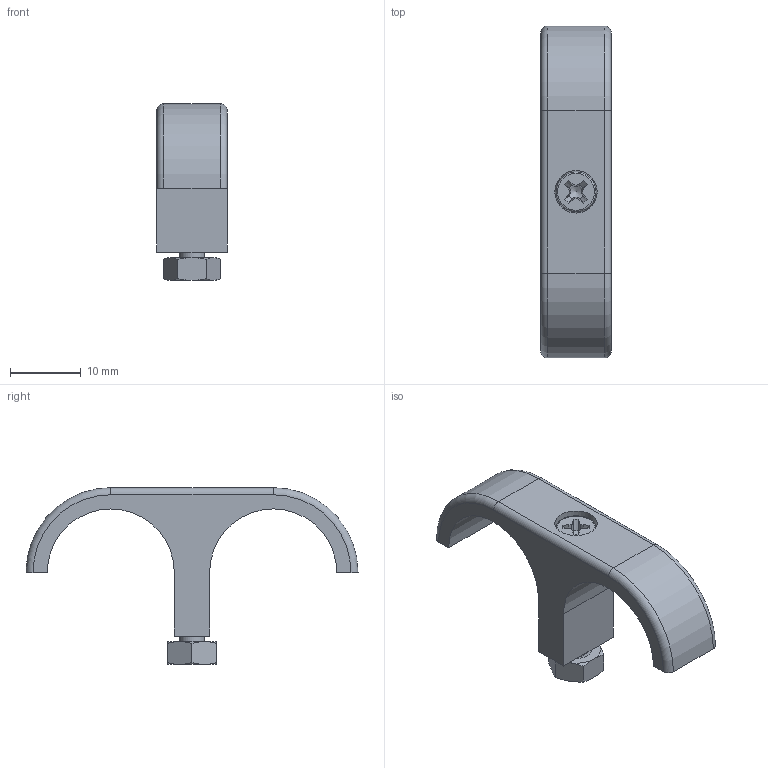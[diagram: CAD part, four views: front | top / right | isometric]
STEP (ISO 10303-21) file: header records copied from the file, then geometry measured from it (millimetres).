
FILE_DESCRIPTION(('FreeCAD Model'),'2;1');
FILE_NAME('Open CASCADE Shape Model','2024-11-01T20:23:29',('Author'),( ''),'Open CASCADE STEP processor 7.6','FreeCAD','Unknown');
FILE_SCHEMA(('AUTOMOTIVE_DESIGN { 1 0 10303 214 1 1 1 1 }'));
Length unit declared in the file: millimetre
Products named in the file (1): Fusion
Bounding box: 10 x 47.01 x 25 mm (x, y, z)
Volume: 2992.5 mm3; surface area: 2335.3 mm2
Topology: 1 solids, 1 shells, 82 faces, 200 edges, 124 vertices
Faces by surface type: plane 39, cone 23, cylinder 14, torus 4, revolution 2
Full cylindrical faces by diameter (mm): 3.5 x3, 6 x1
Entity records: 2939 total; most frequent: CARTESIAN_POINT 513, DIRECTION 475, ORIENTED_EDGE 398, EDGE_CURVE 199, AXIS2_PLACEMENT_3D 194, VERTEX_POINT 124, FACE_BOUND 89, EDGE_LOOP 89
